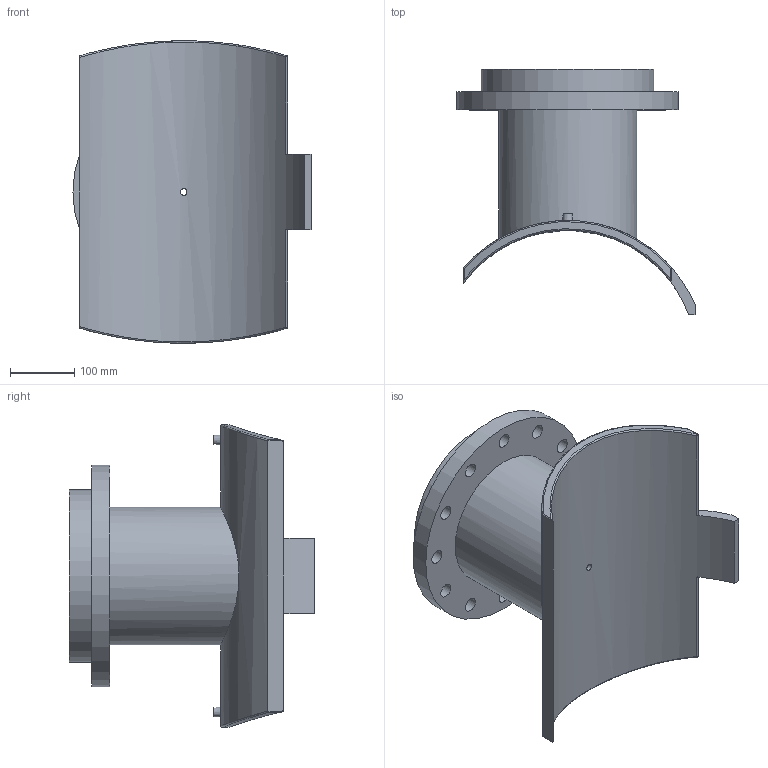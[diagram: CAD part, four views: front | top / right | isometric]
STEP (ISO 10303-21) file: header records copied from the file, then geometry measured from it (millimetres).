
FILE_DESCRIPTION(/* description */ ('PLASSON FLANGED BRANCH SADDLE 400X200'),/* implementation_level */ '2;1');
FILE_NAME(/* name */ 'C:\Dropbox\KIMPROJECTS-Inventor 2019\99-16-3568-Processing\ElectroFusion Fittings\495904_495903\stp\495903400200T.stp',/* time_stamp */ '2024-04-03T21:00:44+02:00',/* author */ ('KIM'),/* organization */ (''),/* preprocessor_version */ 'ST-DEVELOPER v17.2',/* originating_system */ 'Autodesk Inventor 2019',/* authorisation */ '');
FILE_SCHEMA (('AUTOMOTIVE_DESIGN { 1 0 10303 214 3 1 1 }'));
Length unit declared in the file: millimetre
Products named in the file (1): 495903400200T
Bounding box: 370 x 381.21 x 469.91 mm (x, y, z)
Volume: 8582263.1 mm3; surface area: 835041.3 mm2
Topology: 1 solids, 1 shells, 62 faces, 163 edges, 126 vertices
Faces by surface type: cylinder 35, plane 17, sphere 4, bspline 4, cone 2
Full cylindrical faces by diameter (mm): 4 x2, 10 x2, 10.4 x1, 16 x1, 22 x12, 163 x1, 214.4 x1, 268 x1, 344 x1
Entity records: 2599 total; most frequent: CARTESIAN_POINT 971, DIRECTION 325, ORIENTED_EDGE 298, EDGE_CURVE 149, AXIS2_PLACEMENT_3D 137, VERTEX_POINT 100, EDGE_LOOP 99, CIRCLE 78
